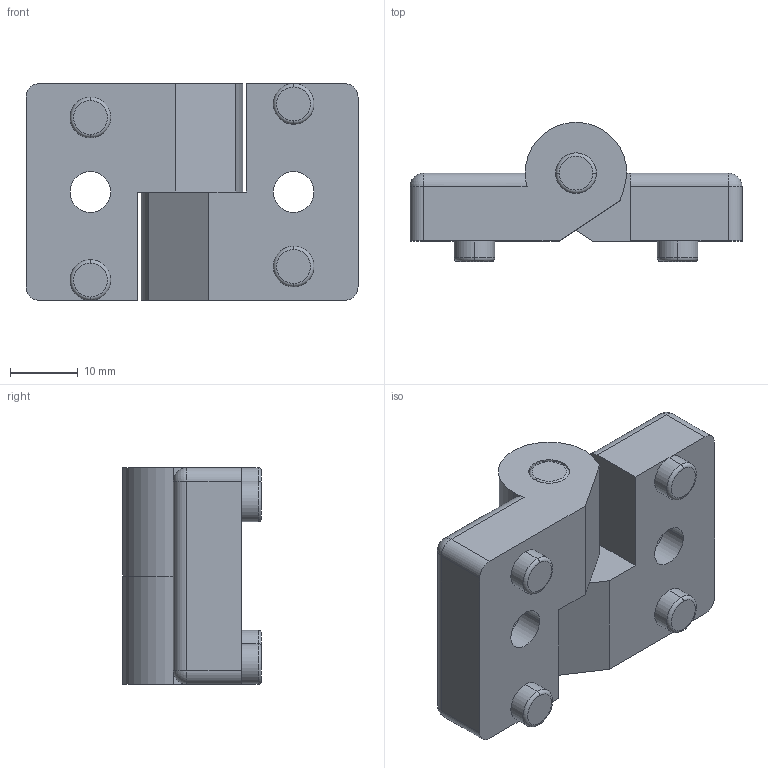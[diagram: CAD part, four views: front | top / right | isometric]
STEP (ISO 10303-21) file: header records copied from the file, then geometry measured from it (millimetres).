
FILE_DESCRIPTION (( 'STEP AP203' ), '1' );
FILE_NAME ('207-CE-HGD-30.STEP', '2015-07-09T09:25:40', ( '' ), ( '' ), 'SwSTEP 2.0', 'SolidWorks 2013', '' );
FILE_SCHEMA (( 'CONFIG_CONTROL_DESIGN' ));
Length unit declared in the file: millimetre
Products named in the file (1): 207-CE-HGD-30
Bounding box: 49 x 20.5 x 32 mm (x, y, z)
Surface area: 7078.3 mm2 (no closed solid volume)
Topology: 0 solids, 4 shells, 76 faces, 176 edges, 106 vertices
Faces by surface type: cylinder 34, plane 24, torus 12, sphere 4, bspline 2
Entity records: 2250 total; most frequent: DIRECTION 408, CARTESIAN_POINT 399, ORIENTED_EDGE 340, EDGE_CURVE 172, AXIS2_PLACEMENT_3D 167, VERTEX_POINT 106, CIRCLE 92, EDGE_LOOP 88
